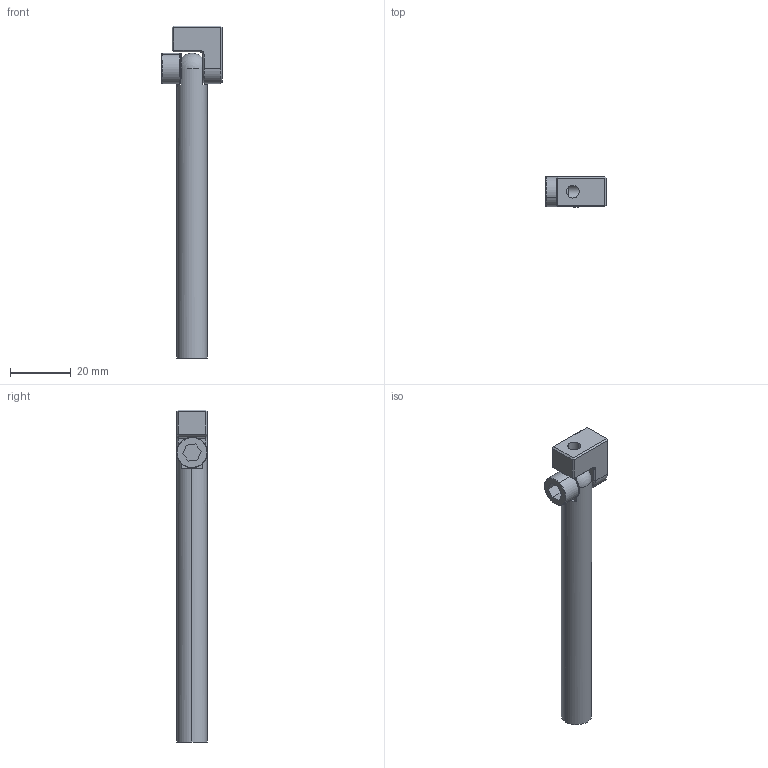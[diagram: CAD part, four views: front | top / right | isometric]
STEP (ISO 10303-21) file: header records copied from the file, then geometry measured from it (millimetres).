
FILE_DESCRIPTION (( 'STEP AP214' ), '1' );
FILE_NAME ('SEAV-M510L90T.STEP', '2023-02-02T01:56:07', ( 'Windows User' ), ( 'P R C' ), 'SwSTEP 2.0', 'SolidWorks 2019', '' );
FILE_SCHEMA (( 'AUTOMOTIVE_DESIGN' ));
Length unit declared in the file: millimetre
Products named in the file (5): SEAV-M510L90.1; SEAV-M510L90.2; PTS-M6; SEAV-M510L90T; PTC-M6L12
Assembly tree (4 placements, depth 2):
  SEAV-M510L90T
    SEAV-M510L90.1
    SEAV-M510L90.2
    PTC-M6L12
    PTS-M6
Bounding box: 19.95 x 10 x 109.3 mm (x, y, z)
Volume: 5475.8 mm3; surface area: 7507.8 mm2
Topology: 4 solids, 4 shells, 241 faces, 666 edges, 430 vertices
Faces by surface type: plane 202, cylinder 25, cone 12, sphere 2
Entity records: 7886 total; most frequent: DIRECTION 1374, CARTESIAN_POINT 1354, ORIENTED_EDGE 1320, EDGE_CURVE 660, AXIS2_PLACEMENT_3D 472, LINE 430, VECTOR 430, VERTEX_POINT 428
